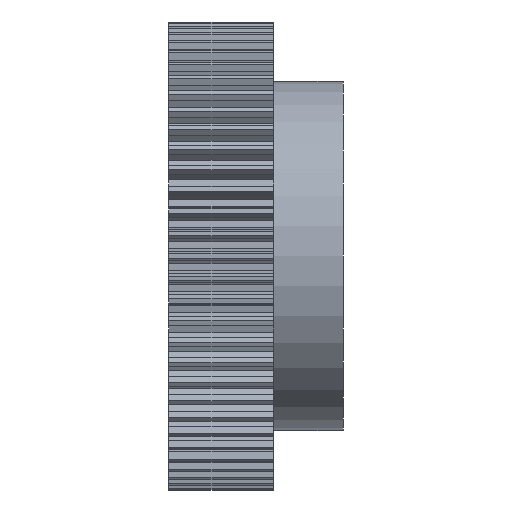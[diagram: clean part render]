
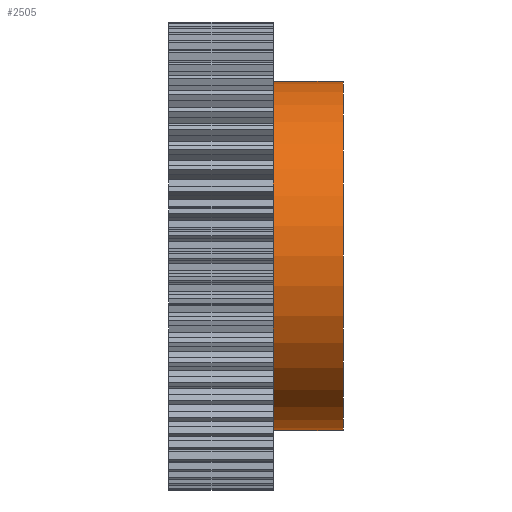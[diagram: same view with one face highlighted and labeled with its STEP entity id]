
A CAD part, front view. The second image highlights one B-rep face of the part: STEP entity #2505.
In plain terms, the highlighted cylindrical face has radius 25 mm (diameter 50 mm), a partial arc.
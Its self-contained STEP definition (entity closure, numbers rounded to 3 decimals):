
#301 = VERTEX_POINT ( 'NONE', #4783 ) ;
#364 = VERTEX_POINT ( 'NONE', #4871 ) ;
#2364 = EDGE_LOOP ( 'NONE', ( #2412, #2508, #2507, #2506 ) ) ;
#2412 = ORIENTED_EDGE ( 'NONE', *, *, #4205, .F. ) ;
#2505 = ADVANCED_FACE ( 'NONE', ( #8232 ), #8227, .T. ) ;
#2506 = ORIENTED_EDGE ( 'NONE', *, *, #3169, .T. ) ;
#2507 = ORIENTED_EDGE ( 'NONE', *, *, #8560, .T. ) ;
#2508 = ORIENTED_EDGE ( 'NONE', *, *, #3329, .T. ) ;
#3169 = EDGE_CURVE ( 'NONE', #8464, #8670, #6830, .T. ) ;
#3329 = EDGE_CURVE ( 'NONE', #364, #301, #9515, .T. ) ;
#4205 = EDGE_CURVE ( 'NONE', #364, #8670, #11588, .T. ) ;
#4783 = CARTESIAN_POINT ( 'NONE',  ( 17.5, 0., 25. ) ) ;
#4871 = CARTESIAN_POINT ( 'NONE',  ( 17.5, 0., -25. ) ) ;
#6819 = CARTESIAN_POINT ( 'NONE',  ( 7.5, 0., 0. ) ) ;
#6820 = AXIS2_PLACEMENT_3D ( 'NONE', #6819, #6827, #6826 ) ;
#6826 = DIRECTION ( 'NONE',  ( 0., 0., 1. ) ) ;
#6827 = DIRECTION ( 'NONE',  ( 1., 0., 0. ) ) ;
#6830 = CIRCLE ( 'NONE', #6820, 25. ) ;
#8188 = AXIS2_PLACEMENT_3D ( 'NONE', #8220, #8219, #8218 ) ;
#8218 = DIRECTION ( 'NONE',  ( 0., 0., 1. ) ) ;
#8219 = DIRECTION ( 'NONE',  ( -1., 0., 0. ) ) ;
#8220 = CARTESIAN_POINT ( 'NONE',  ( 7.5, 0., 0. ) ) ;
#8227 = CYLINDRICAL_SURFACE ( 'NONE', #8188, 25. ) ;
#8232 = FACE_OUTER_BOUND ( 'NONE', #2364, .T. ) ;
#8464 = VERTEX_POINT ( 'NONE', #11964 ) ;
#8560 = EDGE_CURVE ( 'NONE', #301, #8464, #11953, .T. ) ;
#8670 = VERTEX_POINT ( 'NONE', #11998 ) ;
#9509 = DIRECTION ( 'NONE',  ( 0., 0., 1. ) ) ;
#9510 = DIRECTION ( 'NONE',  ( -1., 0., 0. ) ) ;
#9511 = CARTESIAN_POINT ( 'NONE',  ( 17.5, 0., 0. ) ) ;
#9512 = AXIS2_PLACEMENT_3D ( 'NONE', #9511, #9510, #9509 ) ;
#9515 = CIRCLE ( 'NONE', #9512, 25. ) ;
#11585 = DIRECTION ( 'NONE',  ( -1., 0., 0. ) ) ;
#11586 = VECTOR ( 'NONE', #11585, 1000. ) ;
#11587 = CARTESIAN_POINT ( 'NONE',  ( 7.5, 0., -25. ) ) ;
#11588 = LINE ( 'NONE', #11587, #11586 ) ;
#11952 = CARTESIAN_POINT ( 'NONE',  ( 7.5, 0., 25. ) ) ;
#11953 = LINE ( 'NONE', #11952, #12007 ) ;
#11964 = CARTESIAN_POINT ( 'NONE',  ( 7.5, 0., 25. ) ) ;
#11998 = CARTESIAN_POINT ( 'NONE',  ( 7.5, 0., -25. ) ) ;
#12006 = DIRECTION ( 'NONE',  ( -1., 0., 0. ) ) ;
#12007 = VECTOR ( 'NONE', #12006, 1000. ) ;
